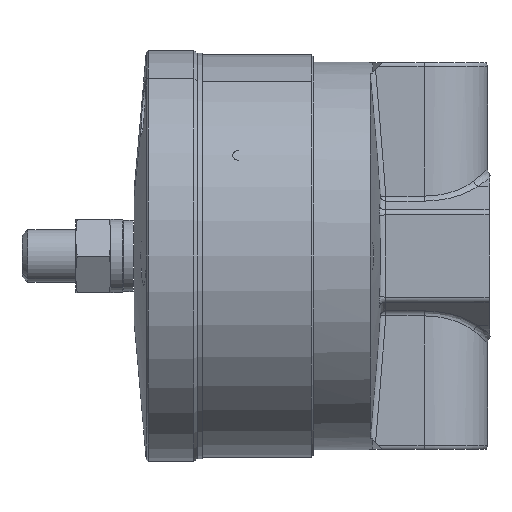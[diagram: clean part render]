
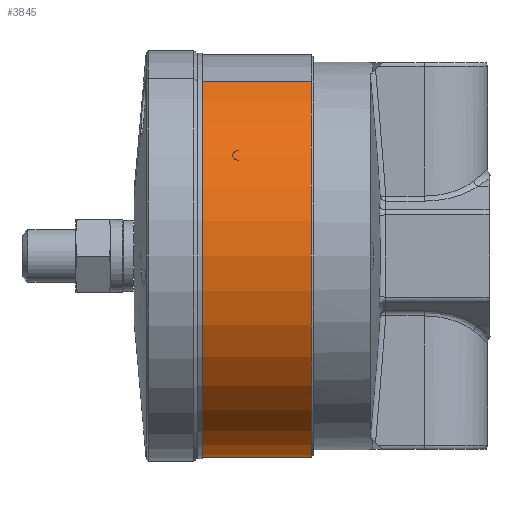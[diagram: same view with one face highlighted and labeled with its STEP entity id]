
A CAD part, left-side view. The second image highlights one B-rep face of the part: STEP entity #3845.
In plain terms, the highlighted cylindrical face has radius 52.45 mm (diameter 104.9 mm), a partial arc.
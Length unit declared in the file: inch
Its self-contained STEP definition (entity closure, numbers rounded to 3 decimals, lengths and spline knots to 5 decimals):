
#3687=DIRECTION('',(0.,1.,0.));
#3688=VECTOR('',#3687,1.11811);
#3689=CARTESIAN_POINT('',(1.03248,-0.17717,
-1.78831));
#3690=LINE('',#3689,#3688);
#3691=CARTESIAN_POINT('',(0.,0.94094,0.));
#3692=DIRECTION('',(0.,1.,0.));
#3693=DIRECTION('',(0.5,0.,-0.866));
#3694=AXIS2_PLACEMENT_3D('',#3691,#3692,#3693);
#3696=DIRECTION('',(0.,1.,0.));
#3697=VECTOR('',#3696,1.11811);
#3698=CARTESIAN_POINT('',(-1.03248,-0.17717,
1.78831));
#3699=LINE('',#3698,#3697);
#3700=CARTESIAN_POINT('',(0.,-0.17717,0.));
#3701=DIRECTION('',(0.,1.,0.));
#3702=DIRECTION('',(0.5,0.,-0.866));
#3703=AXIS2_PLACEMENT_3D('',#3700,#3701,#3702);
#3781=CARTESIAN_POINT('',(1.03248,0.94094,
-1.78831));
#3782=CARTESIAN_POINT('',(-1.03248,0.94094,
1.78831));
#3783=VERTEX_POINT('',#3781);
#3784=VERTEX_POINT('',#3782);
#3785=CARTESIAN_POINT('',(1.03248,-0.17717,
-1.78831));
#3786=CARTESIAN_POINT('',(-1.03248,-0.17717,
1.78831));
#3787=VERTEX_POINT('',#3785);
#3788=VERTEX_POINT('',#3786);
#3832=CARTESIAN_POINT('',(0.,0.99783,0.));
#3833=DIRECTION('',(0.,-1.,0.));
#3834=DIRECTION('',(-0.5,0.,0.866));
#3835=AXIS2_PLACEMENT_3D('',#3832,#3833,#3834);
#3836=CYLINDRICAL_SURFACE('',#3835,2.06496);
#3837=ORIENTED_EDGE('',*,*,#3821,.T.);
#3839=ORIENTED_EDGE('',*,*,#3838,.T.);
#3840=ORIENTED_EDGE('',*,*,#3825,.F.);
#3842=ORIENTED_EDGE('',*,*,#3841,.F.);
#3843=EDGE_LOOP('',(#3837,#3839,#3840,#3842));
#3844=FACE_OUTER_BOUND('',#3843,.F.);
#3845=ADVANCED_FACE('',(#3844),#3836,.T.);
#3695=CIRCLE('',#3694,2.06496);
#3704=CIRCLE('',#3703,2.06496);
#3821=EDGE_CURVE('',#3787,#3783,#3690,.T.);
#3825=EDGE_CURVE('',#3788,#3784,#3699,.T.);
#3838=EDGE_CURVE('',#3783,#3784,#3695,.T.);
#3841=EDGE_CURVE('',#3787,#3788,#3704,.T.);
